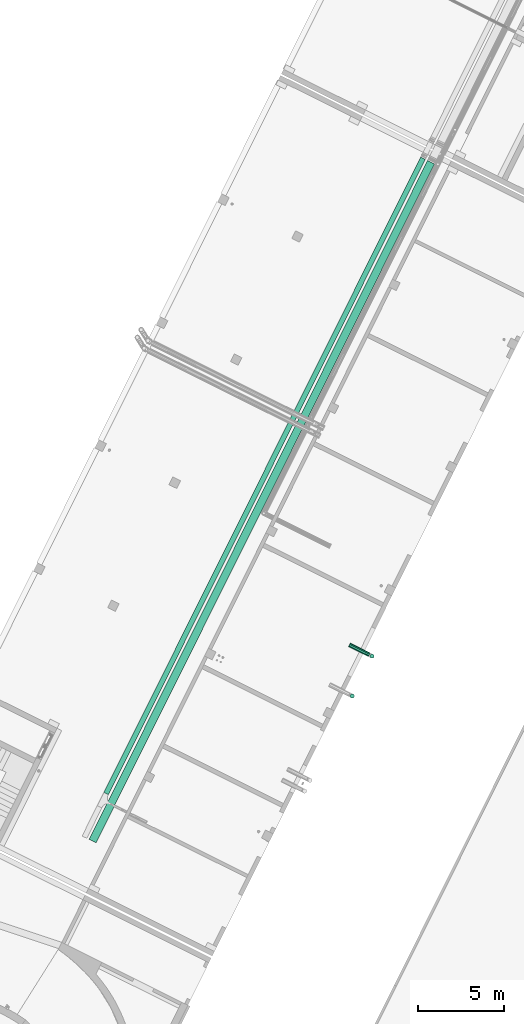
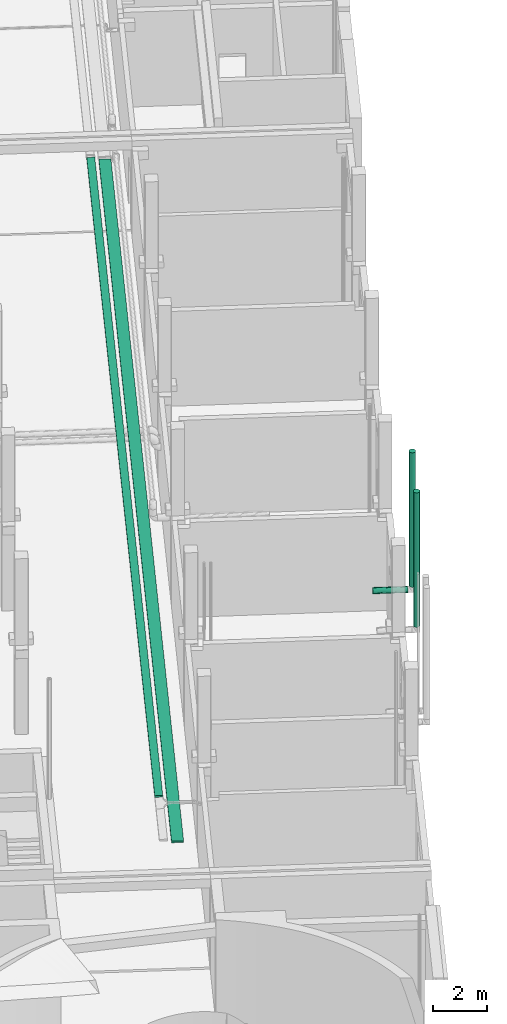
# One storey, part 61 of 91: 5 flow segments.
"""IFC2X3 building model written with IfcOpenShell, lengths in metres."""

from ifc_helpers import new_model, entity, si_unit, converted_unit, derived_unit, direction, frame, frame_2d, origin, origin_2d_with_axis, place, context, subcontext, project, spatial, rectangle, circle, extrude, type_object, element, save


model = new_model("IFC2X3")

# Units and contexts
model_context = context("Model", 3, precision=1e-05, world=origin(), true_north=direction((0.894925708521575, 0.446215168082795)))
context_of_model = context(None, 3, precision=1e-05, world=origin(), true_north=direction((0.894925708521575, 0.446215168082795)))
body_context = subcontext(model_context, "Body", "Model", "MODEL_VIEW")
ifc_project = project(units=[si_unit("LENGTHUNIT", "METRE"), si_unit("AREAUNIT", "SQUARE_METRE"), si_unit("VOLUMEUNIT", "CUBIC_METRE"), converted_unit("PLANEANGLEUNIT", "DEGREE", entity("IfcRatioMeasure", 0.0174532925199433), si_unit("PLANEANGLEUNIT", "RADIAN"), dimensions=[0, 0, 0, 0, 0, 0, 0]), si_unit("MASSUNIT", "GRAM", prefix="KILO"), si_unit("TIMEUNIT", "SECOND"), si_unit("FREQUENCYUNIT", "HERTZ"), si_unit("THERMODYNAMICTEMPERATUREUNIT", "DEGREE_CELSIUS"), derived_unit("THERMALTRANSMITTANCEUNIT", [(si_unit("MASSUNIT", "GRAM", prefix="KILO"), 1), (si_unit("THERMODYNAMICTEMPERATUREUNIT", "KELVIN"), -1), (si_unit("TIMEUNIT", "SECOND"), -3)]), derived_unit("VOLUMETRICFLOWRATEUNIT", [(si_unit("LENGTHUNIT", "METRE"), 3), (si_unit("TIMEUNIT", "SECOND"), -1)]), si_unit("ELECTRICCURRENTUNIT", "AMPERE"), si_unit("ELECTRICVOLTAGEUNIT", "VOLT"), si_unit("POWERUNIT", "WATT"), si_unit("FORCEUNIT", "NEWTON", prefix="KILO"), si_unit("ILLUMINANCEUNIT", "LUX"), si_unit("LUMINOUSFLUXUNIT", "LUMEN"), si_unit("LUMINOUSINTENSITYUNIT", "CANDELA"), si_unit("PRESSUREUNIT", "PASCAL")], contexts=[model_context, context_of_model])

# Site, building, storey
site_placement = place(None, frame((218.228324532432, 584.720189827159, 0.0), z_axis=(0.0, 0.0, 1.0), x_axis=(0.446215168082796, 0.894925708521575, 0.0)))
site = spatial("IfcSite", under=ifc_project, at=site_placement, Name="Default", CompositionType="ELEMENT")
building_placement = place(site_placement, origin())
building = spatial("IfcBuilding", under=site, at=building_placement, CompositionType="ELEMENT")
storey_placement = place(building_placement, origin())
storey = spatial("IfcBuildingStorey", under=building, at=storey_placement, Name="0 - Piano Terra", CompositionType="ELEMENT", Elevation=0.0)

# Flow segments
duct_segment_type = type_object("IfcDuctSegmentType", Name="Condotto circolare:Canna fumaria", PredefinedType="NOTDEFINED")
flow_segment_1_placement = place(storey_placement, frame((-43.4754288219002, -13.8552177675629, 3.07529765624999)))
element("IfcFlowSegment", 1, at=flow_segment_1_placement, inside=storey, type_object=duct_segment_type, Name="Condotto circolare:Canna fumaria", ObjectType="Condotto circolare:Canna fumaria", context=body_context, shape_type="SweptSolid", body=[
    extrude(circle(Radius=0.125, at=frame_2d((5.94172562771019e-30, -2.16573425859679e-15), x_axis=(1.0, 0.0))), frame((0.126595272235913, 0.126595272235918, 0.0)), (0.0, 0.0, 1.0), 6.0844046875),
])
flow_segment_2_placement = place(storey_placement, frame((-40.8823191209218, -13.8552177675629, 3.07529765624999)))
element("IfcFlowSegment", 2, at=flow_segment_2_placement, inside=storey, type_object=duct_segment_type, Name="Condotto circolare:Canna fumaria", ObjectType="Condotto circolare:Canna fumaria", context=body_context, shape_type="SweptSolid", body=[
    extrude(circle(Radius=0.125, at=frame_2d((0.0, -3.38636809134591e-45), x_axis=(1.0, 0.0))), frame((0.126595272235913, 0.126595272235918, 0.0)), (0.0, 0.0, 1.0), 6.08440468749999),
])
flow_segment_3_placement = place(storey_placement, frame((-40.8823191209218, -13.553324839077, 2.77340472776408)))
element("IfcFlowSegment", 3, at=flow_segment_3_placement, inside=storey, type_object=duct_segment_type, Name="Condotto circolare:Canna fumaria", ObjectType="Condotto circolare:Canna fumaria", context=body_context, shape_type="SweptSolid", body=[
    extrude(circle(Radius=0.125, at=origin_2d_with_axis()), frame((0.126595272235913, 0.0, 0.126595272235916), z_axis=(0.0, 1.0, 0.0), x_axis=(1.0, 0.0, 0.0)), (0.0, 0.0, 1.0), 1.30000000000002),
])
cable_carrier_segment_type = type_object("IfcCableCarrierSegmentType", Name="Passerella con raccordi:Passerella canale", PredefinedType="NOTDEFINED")
flow_segment_4_placement = place(storey_placement, frame((-54.8287571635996, -3.60107899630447, 3.76249999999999)))
element("IfcFlowSegment", 4, at=flow_segment_4_placement, inside=storey, type_object=cable_carrier_segment_type, Name="Passerella con raccordi:Passerella canale", ObjectType="Passerella con raccordi:Passerella canale", context=body_context, shape_type="SweptSolid", body=[
    extrude(rectangle(XDim=41.3248, YDim=0.3, at=frame_2d((3.5527136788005e-15, -5.41233724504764e-16), x_axis=(1.0, 0.0))), frame((20.6624, 0.150000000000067, 0.0)), (0.0, 0.0, 1.0), 0.0750000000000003),
])
flow_segment_5_placement = place(storey_placement, frame((-57.6537571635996, -4.20107899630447, 3.66249999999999)))
element("IfcFlowSegment", 5, at=flow_segment_5_placement, inside=storey, type_object=cable_carrier_segment_type, Name="Passerella con raccordi:Passerella canale", ObjectType="Passerella con raccordi:Passerella canale", context=body_context, shape_type="SweptSolid", body=[
    extrude(rectangle(XDim=44.1498, YDim=0.45, at=frame_2d((0.0, -2.63677968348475e-16), x_axis=(1.0, 0.0))), frame((22.0749, 0.22500000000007, 0.0)), (0.0, 0.0, 1.0), 0.0750000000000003),
])

save(model, "model.ifc")
